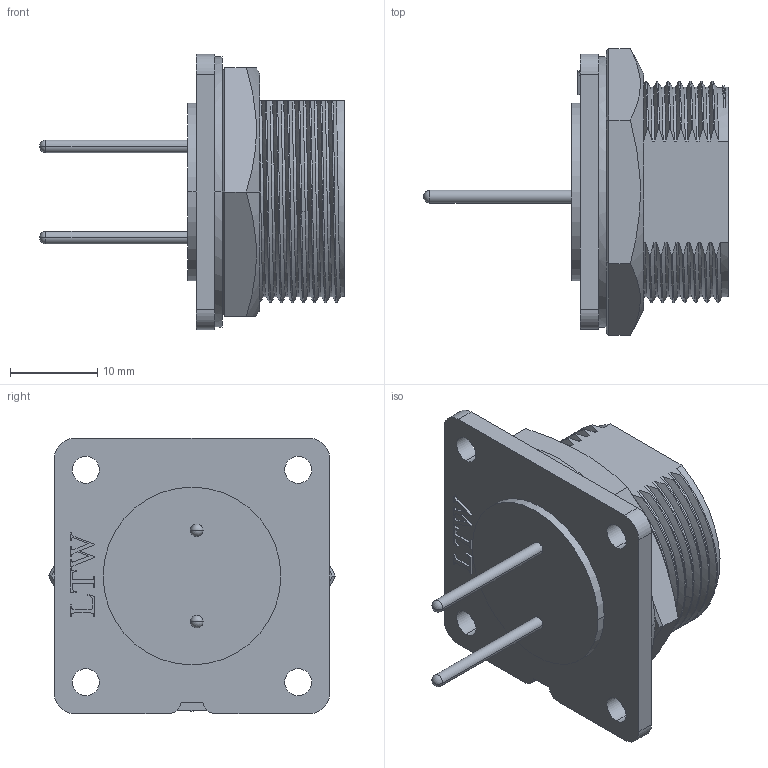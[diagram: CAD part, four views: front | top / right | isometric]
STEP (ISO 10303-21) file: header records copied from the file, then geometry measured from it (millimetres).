
FILE_DESCRIPTION((''),'2;1');
FILE_NAME('DC-02PMMP-SS7001_ASM','2021-08-20T',('L100003'),(''),'PRO/ENGINEER BY PARAMETRIC TECHNOLOGY CORPORATION, 2017170','PRO/ENGINEER BY PARAMETRIC TECHNOLOGY CORPORATION, 2017170','');
FILE_SCHEMA(('CONFIG_CONTROL_DESIGN'));
Length unit declared in the file: millimetre
Products named in the file (2): _DC-02PMMP-SS7001; DC-02PMMP-SS7001_ASM
Assembly tree (1 placements, depth 2):
  DC-02PMMP-SS7001_ASM
    _DC-02PMMP-SS7001
Bounding box: 35 x 32.94 x 31.6 mm (x, y, z)
Volume: 7956.8 mm3; surface area: 5467.2 mm2
Topology: 1 solids, 1 shells, 258 faces, 729 edges, 466 vertices
Faces by surface type: plane 103, cylinder 46, bspline 46, extrusion 45, cone 9, sphere 9
Entity records: 16136 total; most frequent: CARTESIAN_POINT 7970, ORIENTED_EDGE 1438, DIRECTION 964, EDGE_CURVE 719, VERTEX_POINT 466, VECTOR 416, LINE 371, PRESENTATION_STYLE_ASSIGNMENT 303
